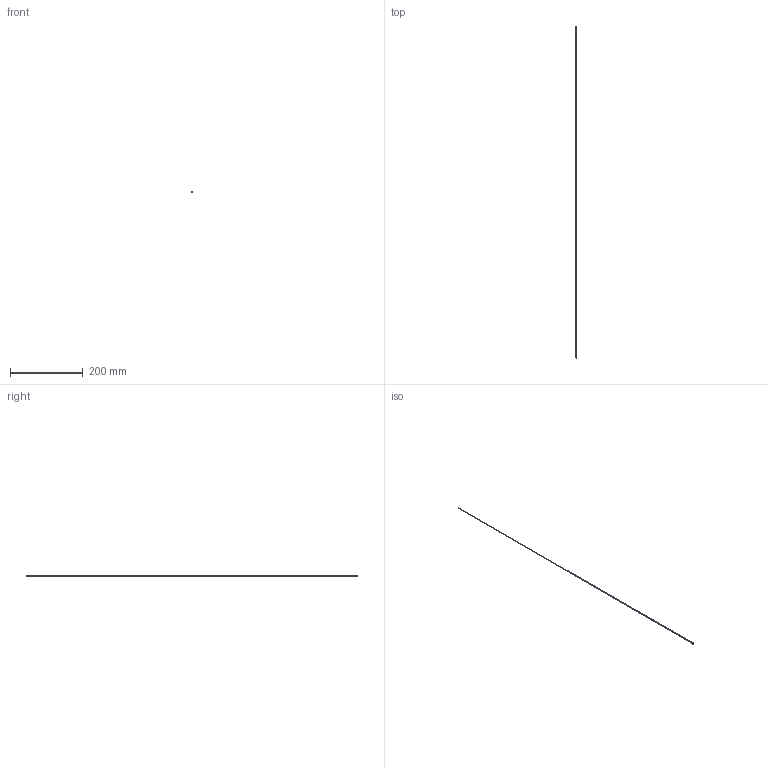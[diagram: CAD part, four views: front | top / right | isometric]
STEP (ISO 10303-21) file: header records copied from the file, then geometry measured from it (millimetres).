
FILE_DESCRIPTION(/* description */ (''),/* implementation_level */ '2;1');
FILE_NAME(/* name */ 'C:/Users/drich/Desktop/JHF072T-36 v1.step',/* time_stamp */ '2020-01-02T20:06:33-06:00',/* author */ (''),/* organization */ (''),/* preprocessor_version */ 'ST-DEVELOPER v18',/* originating_system */ 'Autodesk Translation Framework v8.12.0.6',/* authorisation */ '');
FILE_SCHEMA (('AUTOMOTIVE_DESIGN { 1 0 10303 214 3 1 1 }'));
Length unit declared in the file: inch
Products named in the file (1): JHF072T-36
Bounding box: 4.8 x 914.4 x 4.8 mm (x, y, z)
Volume: 810.2 mm3; surface area: 9705.1 mm2
Topology: 1 solids, 1 shells, 10 faces, 25 edges, 19 vertices
Faces by surface type: cylinder 4, plane 4, cone 1, torus 1
Full cylindrical faces by diameter (mm): 1.524 x1, 1.829 x1, 4.75 x1, 4.801 x1
Entity records: 364 total; most frequent: DIRECTION 67, CARTESIAN_POINT 55, ORIENTED_EDGE 50, AXIS2_PLACEMENT_3D 31, EDGE_CURVE 25, CIRCLE 20, VERTEX_POINT 19, EDGE_LOOP 14
